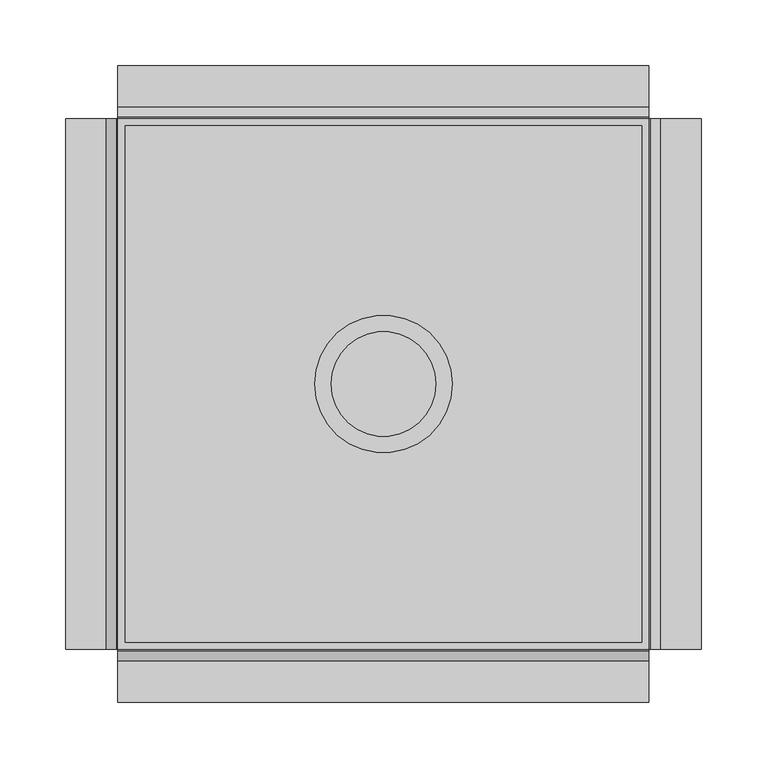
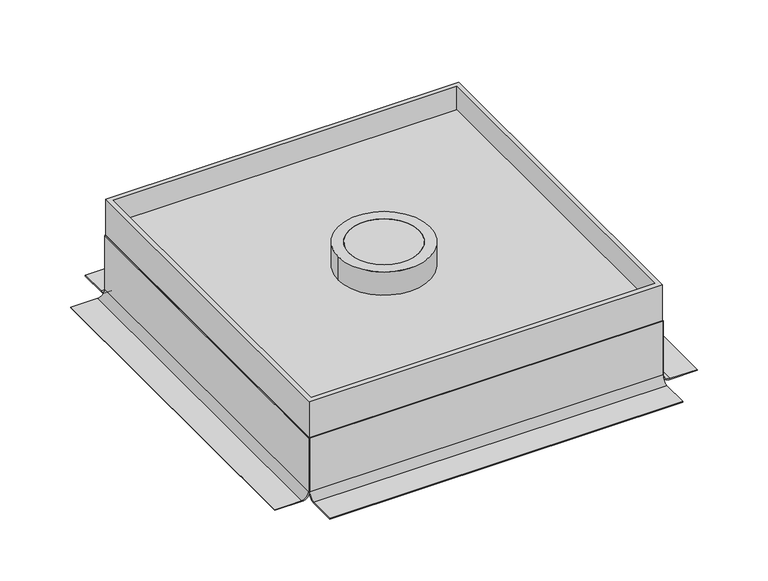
"""IFC4 building model written with IfcOpenShell, lengths in millimetres: proxy geometry, Electrical_Installation_Hager_VE-EE_EKSQ405TM-Heavy-duty-cassette-Q405-with-tube-mounting-set : Stainless-steel cassette Q405 TM 20 kN."""

from ifc_helpers import new_model, si_unit, point, frame, frame_2d, origin, origin_with_axes, origin_2d, place, context, project, spatial, polyline, circle_curve, trimmed, segment, composite_curve, outline, extrude, source, transform, mapped, element, save


def electrical_fixtures_743d87c8(model_context):
    return source(origin(), model_context, "Body", "SweptSolid", [
        extrude(outline(polyline([(202.5, -202.5), (-202.5, -202.5), (-202.5, 202.5), (202.5, 202.5), (202.5, -202.5)]), holes=[polyline([(-197.0, -197.0), (197.0, -197.0), (197.0, 197.0), (-197.0, 197.0), (-197.0, -197.0)])]), frame((0.0, 0.0, -90.0), z_axis=(0.0, 0.0, 1.0), x_axis=(1.0, 0.0, 0.0)), (0.0, 0.0, 1.0), 48.0),
        extrude(outline(composite_curve([segment(trimmed(circle_curve(origin_2d(), 52.5), [point((-52.5, 0.0))], [point((52.5, 0.0))], False, "CARTESIAN"), True, "CONTINUOUS"), segment(trimmed(circle_curve(origin_2d(), 52.5), [point((52.5, 0.0))], [point((-52.5, 0.0))], False, "CARTESIAN"), True, "CONTINUOUS")], self_intersect=False), holes=[composite_curve([segment(trimmed(circle_curve(origin_2d(), 40.0), [point((-40.0, 0.0))], [point((40.0, 0.0))], True, "CARTESIAN"), True, "CONTINUOUS"), segment(trimmed(circle_curve(origin_2d(), 40.0), [point((40.0, 0.0))], [point((-40.0, 0.0))], True, "CARTESIAN"), True, "CONTINUOUS")], self_intersect=False)]), frame((0.0, 0.0, -26.0), z_axis=(0.0, 0.0, 1.0), x_axis=(1.0, 0.0, 0.0)), (0.0, 0.0, 1.0), 28.0),
        extrude(outline(composite_curve([segment(trimmed(circle_curve(origin_2d(), 40.0), [point((-40.0, 0.0))], [point((40.0, 0.0))], False, "CARTESIAN"), True, "CONTINUOUS"), segment(trimmed(circle_curve(origin_2d(), 40.0), [point((40.0, 0.0))], [point((-40.0, 0.0))], False, "CARTESIAN"), True, "CONTINUOUS")], self_intersect=False)), origin_with_axes(), (0.0, 0.0, 1.0), 2.0),
        extrude(outline(composite_curve([segment(polyline([(-42.0, -202.5), (-42.0, -203.5), (-107.0, -203.5)]), True, "CONTINUOUS"), segment(trimmed(circle_curve(frame_2d((-107.0, -211.5)), 8.0), [point((-107.0, -203.5))], [point((-115.0, -211.5))], True, "CARTESIAN"), True, "CONTINUOUS"), segment(polyline([(-115.0, -211.5), (-115.0, -242.5), (-116.0, -242.5), (-116.0, -210.5)]), True, "CONTINUOUS"), segment(trimmed(circle_curve(frame_2d((-108.0, -210.5)), 8.0), [point((-116.0, -210.5))], [point((-108.0, -202.5))], False, "CARTESIAN"), True, "CONTINUOUS"), segment(polyline([(-108.0, -202.5), (-42.0, -202.5)]), True, "CONTINUOUS")], self_intersect=False)), frame((0.0, -202.5, 0.0), z_axis=(0.0, 1.0, 0.0), x_axis=(0.0, 0.0, 1.0)), (0.0, 0.0, 1.0), 405.0),
        extrude(outline(composite_curve([segment(polyline([(-42.0, 202.5), (-108.0, 202.5)]), True, "CONTINUOUS"), segment(trimmed(circle_curve(frame_2d((-108.0, 210.5)), 8.0), [point((-108.0, 202.5))], [point((-116.0, 210.5))], False, "CARTESIAN"), True, "CONTINUOUS"), segment(polyline([(-116.0, 210.5), (-116.0, 242.5), (-115.0, 242.5), (-115.0, 211.5)]), True, "CONTINUOUS"), segment(trimmed(circle_curve(frame_2d((-107.0, 211.5)), 8.0), [point((-115.0, 211.5))], [point((-107.0, 203.5))], True, "CARTESIAN"), True, "CONTINUOUS"), segment(polyline([(-107.0, 203.5), (-42.0, 203.5), (-42.0, 202.5)]), True, "CONTINUOUS")], self_intersect=False)), frame((0.0, -202.5, 0.0), z_axis=(0.0, 1.0, 0.0), x_axis=(0.0, 0.0, 1.0)), (0.0, 0.0, 1.0), 405.0),
        extrude(outline(composite_curve([segment(polyline([(203.5, -42.0), (203.5, -107.0189708)]), True, "CONTINUOUS"), segment(trimmed(circle_curve(frame_2d((211.4810292, -107.0189708)), 7.9810292), [point((203.5, -107.0189708))], [point((211.4810292, -115.0))], True, "CARTESIAN"), True, "CONTINUOUS"), segment(polyline([(211.4810292, -115.0), (242.9, -115.0), (242.9, -116.0), (210.5, -116.0)]), True, "CONTINUOUS"), segment(trimmed(circle_curve(frame_2d((210.5, -108.0)), 8.0), [point((210.5, -116.0))], [point((202.5, -108.0))], False, "CARTESIAN"), True, "CONTINUOUS"), segment(polyline([(202.5, -108.0), (202.5, -42.0), (203.5, -42.0)]), True, "CONTINUOUS")], self_intersect=False)), frame((-202.5, 0.0, 0.0), z_axis=(1.0, 0.0, 0.0), x_axis=(0.0, 1.0, 0.0)), (0.0, 0.0, 1.0), 405.0),
        extrude(outline(composite_curve([segment(polyline([(-203.5, -42.0), (-202.5, -42.0), (-202.5, -108.0)]), True, "CONTINUOUS"), segment(trimmed(circle_curve(frame_2d((-210.5, -108.0)), 8.0), [point((-202.5, -108.0))], [point((-210.5, -116.0))], False, "CARTESIAN"), True, "CONTINUOUS"), segment(polyline([(-210.5, -116.0), (-242.9, -116.0), (-242.9, -115.0), (-211.5, -115.0)]), True, "CONTINUOUS"), segment(trimmed(circle_curve(frame_2d((-211.5, -107.0)), 8.0), [point((-211.5, -115.0))], [point((-203.5, -107.0))], True, "CARTESIAN"), True, "CONTINUOUS"), segment(polyline([(-203.5, -107.0), (-203.5, -42.0)]), True, "CONTINUOUS")], self_intersect=False)), frame((-202.5, 0.0, 0.0), z_axis=(1.0, 0.0, 0.0), x_axis=(0.0, 1.0, 0.0)), (0.0, 0.0, 1.0), 405.0),
        extrude(outline(composite_curve([segment(trimmed(circle_curve(frame_2d((-182.5, 162.5072465)), 7.0), [point((-189.5, 162.5072465))], [point((-175.5, 162.5072465))], False, "CARTESIAN"), True, "CONTINUOUS"), segment(trimmed(circle_curve(frame_2d((-182.5, 162.5072465)), 7.0), [point((-175.5, 162.5072465))], [point((-189.5, 162.5072465))], False, "CARTESIAN"), True, "CONTINUOUS")], self_intersect=False)), frame((0.0, 0.0, -116.0), z_axis=(0.0, 0.0, 1.0), x_axis=(1.0, 0.0, 0.0)), (0.0, 0.0, 1.0), 26.0),
        extrude(outline(composite_curve([segment(trimmed(circle_curve(frame_2d((162.596819, 182.1165488)), 7.0), [point((155.596819, 182.1165488))], [point((169.596819, 182.1165488))], False, "CARTESIAN"), True, "CONTINUOUS"), segment(trimmed(circle_curve(frame_2d((162.596819, 182.1165488)), 7.0), [point((169.596819, 182.1165488))], [point((155.596819, 182.1165488))], False, "CARTESIAN"), True, "CONTINUOUS")], self_intersect=False)), frame((0.0, 0.0, -116.0), z_axis=(0.0, 0.0, 1.0), x_axis=(1.0, 0.0, 0.0)), (0.0, 0.0, 1.0), 26.0),
        extrude(outline(composite_curve([segment(trimmed(circle_curve(frame_2d((182.5, -162.8765067)), 7.0), [point((175.5, -162.8765067))], [point((189.5, -162.8765067))], False, "CARTESIAN"), True, "CONTINUOUS"), segment(trimmed(circle_curve(frame_2d((182.5, -162.8765067)), 7.0), [point((189.5, -162.8765067))], [point((175.5, -162.8765067))], False, "CARTESIAN"), True, "CONTINUOUS")], self_intersect=False)), frame((0.0, 0.0, -116.0), z_axis=(0.0, 0.0, 1.0), x_axis=(1.0, 0.0, 0.0)), (0.0, 0.0, 1.0), 26.0),
        extrude(outline(composite_curve([segment(trimmed(circle_curve(frame_2d((-162.4975161, -182.7889902)), 7.0), [point((-169.4975161, -182.7889902))], [point((-155.4975161, -182.7889902))], False, "CARTESIAN"), True, "CONTINUOUS"), segment(trimmed(circle_curve(frame_2d((-162.4975161, -182.7889902)), 7.0), [point((-155.4975161, -182.7889902))], [point((-169.4975161, -182.7889902))], False, "CARTESIAN"), True, "CONTINUOUS")], self_intersect=False)), frame((0.0, 0.0, -116.0), z_axis=(0.0, 0.0, 1.0), x_axis=(1.0, 0.0, 0.0)), (0.0, 0.0, 1.0), 26.0),
        extrude(outline(polyline([(4.7, 116.5), (95.8639966, 116.5), (116.5, 99.5470649), (116.5, -98.6394213), (95.2984665, -116.5), (-96.367755, -116.5), (-116.5, -98.6801256), (-116.5, 101.043544), (-96.1272863, 116.5), (4.7, 116.5)]), holes=[polyline([(-113.5, 99.8642535), (-113.5, -97.634929), (-94.9180331, -113.5), (93.9123304, -113.5), (113.5, -97.5355815), (113.5, 98.4312235), (94.4906502, 113.5), (4.7, 113.5), (-94.8203352, 113.5), (-113.5, 99.8642535)])]), frame((0.0, 0.0, -90.0), z_axis=(0.0, 0.0, 1.0), x_axis=(1.0, 0.0, 0.0)), (0.0, 0.0, 1.0), 48.0),
        extrude(outline(polyline([(197.0, 197.0), (197.0, -197.0), (-197.0, -197.0), (-197.0, 197.0), (197.0, 197.0)]), holes=[composite_curve([segment(trimmed(circle_curve(origin_2d(), 40.0), [point((-40.0, 0.0))], [point((40.0, 0.0))], True, "CARTESIAN"), True, "CONTINUOUS"), segment(trimmed(circle_curve(origin_2d(), 40.0), [point((40.0, 0.0))], [point((-40.0, 0.0))], True, "CARTESIAN"), True, "CONTINUOUS")], self_intersect=False)]), frame((0.0, 0.0, -42.0), z_axis=(0.0, 0.0, 1.0), x_axis=(1.0, 0.0, 0.0)), (0.0, 0.0, 1.0), 16.0),
        extrude(outline(composite_curve([segment(trimmed(circle_curve(frame_2d((-163.4761436, -183.0571489)), 9.9634354), [point((-173.439579, -183.0571489))], [point((-153.5127082, -183.0571489))], False, "CARTESIAN"), True, "CONTINUOUS"), segment(trimmed(circle_curve(frame_2d((-163.4761436, -183.0571489)), 9.9634354), [point((-153.5127082, -183.0571489))], [point((-173.439579, -183.0571489))], False, "CARTESIAN"), True, "CONTINUOUS")], self_intersect=False)), frame((0.0, 0.0, -90.0), z_axis=(0.0, 0.0, 1.0), x_axis=(1.0, 0.0, 0.0)), (0.0, 0.0, 1.0), 48.0),
        extrude(outline(composite_curve([segment(trimmed(circle_curve(frame_2d((182.5, -162.5766244)), 10.0), [point((172.5, -162.5766244))], [point((192.5, -162.5766244))], False, "CARTESIAN"), True, "CONTINUOUS"), segment(trimmed(circle_curve(frame_2d((182.5, -162.5766244)), 10.0), [point((192.5, -162.5766244))], [point((172.5, -162.5766244))], False, "CARTESIAN"), True, "CONTINUOUS")], self_intersect=False)), frame((0.0, 0.0, -90.0), z_axis=(0.0, 0.0, 1.0), x_axis=(1.0, 0.0, 0.0)), (0.0, 0.0, 1.0), 48.0),
        extrude(outline(composite_curve([segment(trimmed(circle_curve(frame_2d((-182.5, 162.531305)), 10.0), [point((-192.5, 162.531305))], [point((-172.5, 162.531305))], False, "CARTESIAN"), True, "CONTINUOUS"), segment(trimmed(circle_curve(frame_2d((-182.5, 162.531305)), 10.0), [point((-172.5, 162.531305))], [point((-192.5, 162.531305))], False, "CARTESIAN"), True, "CONTINUOUS")], self_intersect=False)), frame((0.0, 0.0, -90.0), z_axis=(0.0, 0.0, 1.0), x_axis=(1.0, 0.0, 0.0)), (0.0, 0.0, 1.0), 48.0),
        extrude(outline(composite_curve([segment(trimmed(circle_curve(frame_2d((162.3393, 182.8509017)), 10.0), [point((152.3393, 182.8509017))], [point((172.3393, 182.8509017))], False, "CARTESIAN"), True, "CONTINUOUS"), segment(trimmed(circle_curve(frame_2d((162.3393, 182.8509017)), 10.0), [point((172.3393, 182.8509017))], [point((152.3393, 182.8509017))], False, "CARTESIAN"), True, "CONTINUOUS")], self_intersect=False)), frame((0.0, 0.0, -90.0), z_axis=(0.0, 0.0, 1.0), x_axis=(1.0, 0.0, 0.0)), (0.0, 0.0, 1.0), 48.0),
        extrude(outline(polyline([(202.5, 202.5), (202.5, -202.5), (-202.5, -202.5), (-202.5, 202.5), (202.5, 202.5)]), holes=[polyline([(197.0, 197.0), (-197.0, 197.0), (-197.0, -197.0), (197.0, -197.0), (197.0, 197.0)])]), frame((0.0, 0.0, -42.0), z_axis=(0.0, 0.0, 1.0), x_axis=(1.0, 0.0, 0.0)), (0.0, 0.0, 1.0), 44.0),
    ])


if __name__ == "__main__":
    model = new_model("IFC4")
    model_context = context("Model", 3, world=origin())
    ifc_project = project(units=[si_unit("LENGTHUNIT", "METRE", prefix="MILLI")], contexts=[model_context])
    site = spatial("IfcSite", under=ifc_project)
    building = spatial("IfcBuilding", under=site)
    placement = place(None, origin())
    electrical_fixtures_shape = electrical_fixtures_743d87c8(model_context)
    element("IfcBuildingElementProxy", 1, Name="Electrical_Installation_Hager_VE-EE_EKSQ405TM-Heavy-duty-cassette-Q405-with-tube-mounting-set : Stainless-steel cassette Q405 TM 20 kN", ObjectType="Electrical_Installation_Hager_VE-EE_EKSQ405TM-Heavy-duty-cassette-Q405-with-tube-mounting-set : Stainless-steel cassette Q405 TM 20 kN", at=placement, inside=building, context=model_context, shape_type="MappedRepresentation", body=[
        mapped(electrical_fixtures_shape, transform((0.0, 0.0, 0.0), x_axis=(1.0, 0.0, 0.0), y_axis=(0.0, 1.0, 0.0), z_axis=(0.0, 0.0, 1.0))),
    ])
    save(model, "model.ifc")
